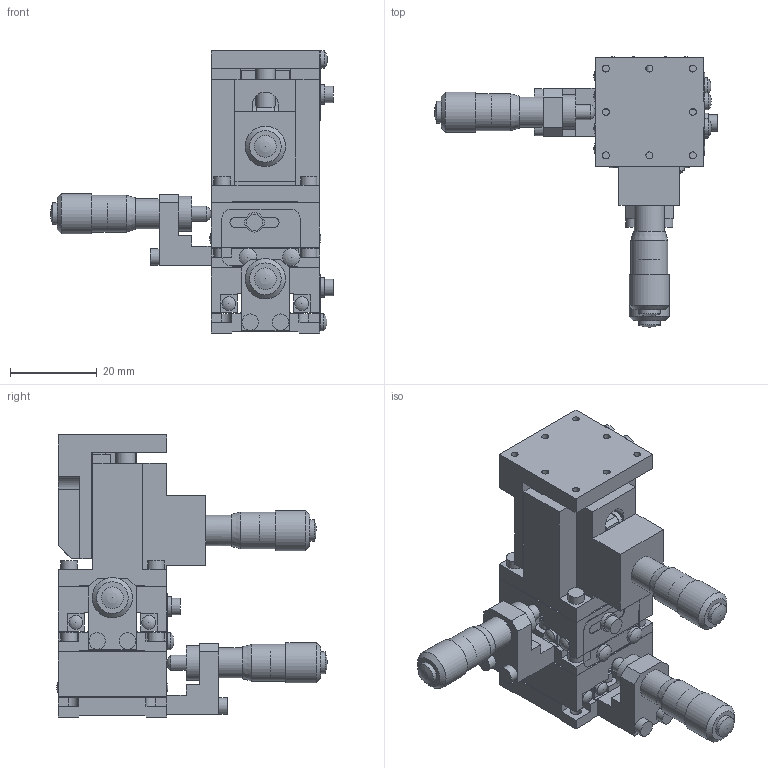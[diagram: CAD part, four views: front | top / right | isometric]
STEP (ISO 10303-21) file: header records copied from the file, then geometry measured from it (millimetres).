
FILE_DESCRIPTION( ( 'STEP AP203' ), '1' );
FILE_NAME( '//Srg14/OST事業部/技術G/Topsolid/Technical/標準品-3Dデータ作成エリア/ASSY/B76-25A/3D_B76-25A+090225.step', '2009-02-25T07:42:27', ( ' ' ), ( ' ' ), 'XStep 1.0', ' ', ' ' );
FILE_SCHEMA( ( 'CONFIG_CONTROL_DESIGN' ) );
Length unit declared in the file: millimetre
Products named in the file (10): 1; 2; 3; 4; 5; 6; 7; 8; 9; 10
Bounding box: 65.2 x 62.3 x 65 mm (x, y, z)
Volume: 39847.1 mm3; surface area: 27283.9 mm2
Topology: 10 solids, 11 shells, 634 faces, 1638 edges, 1086 vertices
Faces by surface type: plane 394, cylinder 173, cone 38, sphere 29
Full cylindrical faces by diameter (mm): 1.57 x1, 1.6 x38, 1.7 x4, 2 x5, 2.1 x1, 2.5 x12, 3.2 x16, 3.5 x6, 3.8 x15, 4 x6, 4.5 x9, 5 x6, 5.5 x4, 6 x2, 7 x3, 8 x3, 8.1 x3, 8.5 x3, 9.3 x3, 9.998 x1
Entity records: 17811 total; most frequent: CARTESIAN_POINT 3217, DIRECTION 2931, ORIENTED_EDGE 2590, EDGE_CURVE 1295, AXIS2_PLACEMENT_3D 1011, EDGE_LOOP 946, VERTEX_POINT 945, LINE 909
